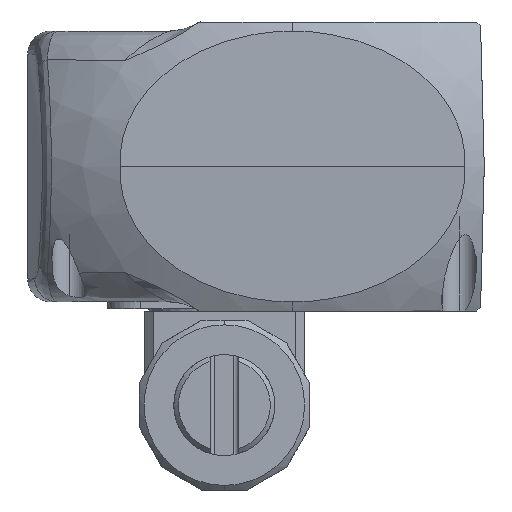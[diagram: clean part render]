
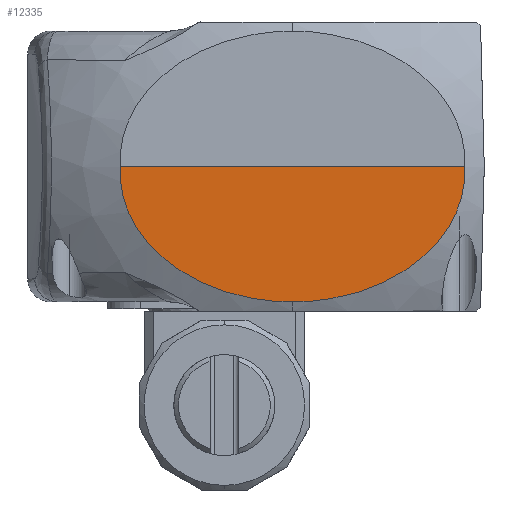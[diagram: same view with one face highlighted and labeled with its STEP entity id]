
A CAD part, left-side view. The second image highlights one B-rep face of the part: STEP entity #12335.
In plain terms, the highlighted planar face has unit normal (-1, 0, -0.026).
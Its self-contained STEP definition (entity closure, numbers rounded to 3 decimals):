
#359=CARTESIAN_POINT('',(-37.5,-52.35,52.));
#479=CARTESIAN_POINT('',(-37.5,22.65,52.));
#480=CARTESIAN_POINT('',(-37.482,22.7,51.309));
#481=CARTESIAN_POINT('',(-37.446,22.727,49.926));
#482=CARTESIAN_POINT('',(-37.391,22.559,47.854));
#483=CARTESIAN_POINT('',(-37.337,22.176,45.766));
#484=CARTESIAN_POINT('',(-37.282,21.568,43.665));
#485=CARTESIAN_POINT('',(-37.226,20.716,41.55));
#486=CARTESIAN_POINT('',(-37.171,19.617,39.435));
#487=CARTESIAN_POINT('',(-37.116,18.261,37.335));
#488=CARTESIAN_POINT('',(-37.062,16.636,35.282));
#489=CARTESIAN_POINT('',(-37.01,14.725,33.283));
#490=CARTESIAN_POINT('',(-36.959,12.5,31.338));
#491=CARTESIAN_POINT('',(-36.91,9.955,29.487));
#492=CARTESIAN_POINT('',(-36.866,7.13,27.792));
#493=CARTESIAN_POINT('',(-36.826,4.014,26.269));
#494=CARTESIAN_POINT('',(-36.792,0.606,24.946));
#495=CARTESIAN_POINT('',(-36.763,-3.032,23.874));
#496=CARTESIAN_POINT('',(-36.743,-6.855,23.083));
#497=CARTESIAN_POINT('',(-36.73,-10.814,22.598));
#498=CARTESIAN_POINT('',(-36.727,-13.495,22.489));
#499=CARTESIAN_POINT('',(-36.727,-14.85,22.488));
#501=CARTESIAN_POINT('',(-36.727,-14.85,22.488));
#5054=CARTESIAN_POINT('',(-37.5,22.65,52.));
#5076=DIRECTION('',(0.,-1.,0.));
#5077=VECTOR('',#5076,75.);
#5078=CARTESIAN_POINT('',(-37.5,22.65,52.));
#5079=LINE('',#5078,#5077);
#5080=CARTESIAN_POINT('',(-37.5,-52.35,52.));
#5081=CARTESIAN_POINT('',(-37.482,-52.4,
51.309));
#5082=CARTESIAN_POINT('',(-37.446,-52.427,
49.926));
#5083=CARTESIAN_POINT('',(-37.391,-52.259,
47.854));
#5084=CARTESIAN_POINT('',(-37.337,-51.876,
45.767));
#5085=CARTESIAN_POINT('',(-37.282,-51.268,
43.667));
#5086=CARTESIAN_POINT('',(-37.226,-50.416,
41.551));
#5087=CARTESIAN_POINT('',(-37.171,-49.317,
39.436));
#5088=CARTESIAN_POINT('',(-37.116,-47.961,
37.336));
#5089=CARTESIAN_POINT('',(-37.062,-46.337,
35.282));
#5090=CARTESIAN_POINT('',(-37.01,-44.426,
33.284));
#5091=CARTESIAN_POINT('',(-36.959,-42.2,
31.338));
#5092=CARTESIAN_POINT('',(-36.91,-39.656,
29.487));
#5093=CARTESIAN_POINT('',(-36.866,-36.831,
27.793));
#5094=CARTESIAN_POINT('',(-36.826,-33.715,
26.269));
#5095=CARTESIAN_POINT('',(-36.792,-30.307,24.947));
#5096=CARTESIAN_POINT('',(-36.764,-26.669,
23.874));
#5097=CARTESIAN_POINT('',(-36.743,-22.845,
23.083));
#5098=CARTESIAN_POINT('',(-36.73,-18.887,
22.598));
#5099=CARTESIAN_POINT('',(-36.727,-16.205,
22.489));
#5100=CARTESIAN_POINT('',(-36.727,-14.85,22.488));
#7374=VERTEX_POINT('',#501);
#7478=VERTEX_POINT('',#5054);
#7479=VERTEX_POINT('',#359);
#12325=CARTESIAN_POINT('',(-37.114,-14.85,
37.244));
#12326=DIRECTION('',(1.,0.,0.026));
#12327=DIRECTION('',(0.,1.,0.));
#12328=AXIS2_PLACEMENT_3D('',#12325,#12326,#12327);
#12329=PLANE('',#12328);
#12330=ORIENTED_EDGE('',*,*,#12318,.T.);
#12331=ORIENTED_EDGE('',*,*,#8330,.T.);
#12332=ORIENTED_EDGE('',*,*,#8476,.F.);
#12333=EDGE_LOOP('',(#12330,#12331,#12332));
#12334=FACE_OUTER_BOUND('',#12333,.F.);
#12335=ADVANCED_FACE('',(#12334),#12329,.F.);
#500=B_SPLINE_CURVE_WITH_KNOTS('',3,(#479,#480,#481,#482,#483,#484,#485,#486,
#487,#488,#489,#490,#491,#492,#493,#494,#495,#496,#497,#498,#499),.UNSPECIFIED.,
.F.,.F.,(4,1,1,1,1,1,1,1,1,1,1,1,1,1,1,1,1,1,4),(0.,0.056,
0.111,0.167,0.222,0.278,
0.333,0.389,0.444,0.5,0.556,
0.611,0.667,0.722,0.778,
0.833,0.889,0.944,1.),.UNSPECIFIED.);
#5101=B_SPLINE_CURVE_WITH_KNOTS('',3,(#5080,#5081,#5082,#5083,#5084,#5085,#5086,
#5087,#5088,#5089,#5090,#5091,#5092,#5093,#5094,#5095,#5096,#5097,#5098,#5099,
#5100),.UNSPECIFIED.,.F.,.F.,(4,1,1,1,1,1,1,1,1,1,1,1,1,1,1,1,1,1,4),(0.,
0.056,0.111,0.167,0.222,
0.278,0.333,0.389,0.444,0.5,
0.556,0.611,0.667,0.722,
0.778,0.833,0.889,0.944,1.),
.UNSPECIFIED.);
#8330=EDGE_CURVE('',#7479,#7374,#5101,.T.);
#8476=EDGE_CURVE('',#7478,#7374,#500,.T.);
#12318=EDGE_CURVE('',#7478,#7479,#5079,.T.);
